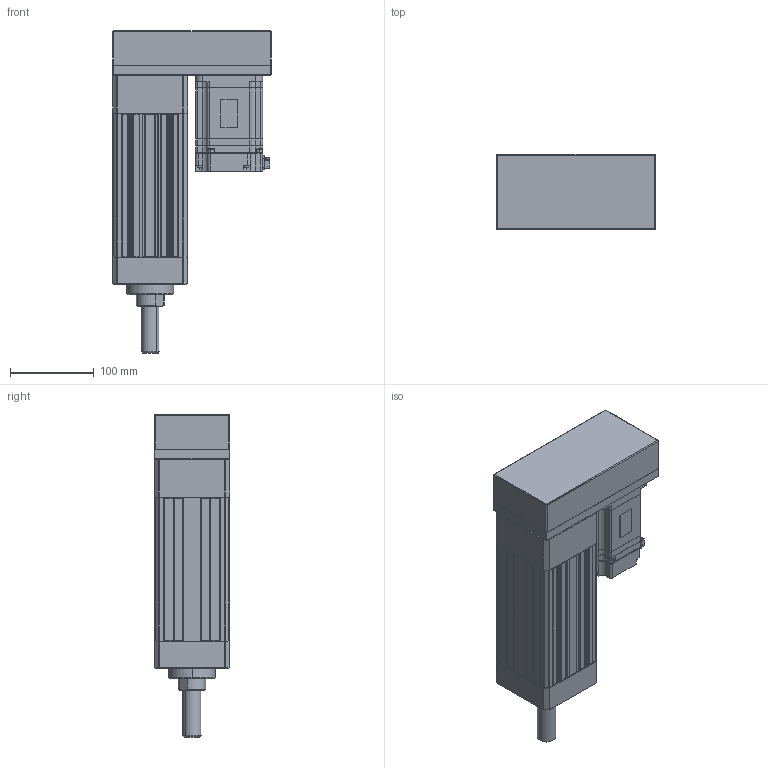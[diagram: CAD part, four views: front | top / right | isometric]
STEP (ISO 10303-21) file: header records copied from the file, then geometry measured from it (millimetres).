
FILE_DESCRIPTION (( 'STEP AP203' ), '1' );
FILE_NAME ('ANS090R-P050-05(10)(20)-W75-M.STEP', '2019-03-02T10:08:55', ( 'user' ), ( '' ), 'SwSTEP 2.0', 'SolidWorks 2013', '' );
FILE_SCHEMA (( 'CONFIG_CONTROL_DESIGN' ));
Length unit declared in the file: millimetre
Products named in the file (4): ANS090R-P050-05(10)(20)-W75-M; ANS090R P050 VER2; SGMJV_08A_A21; ANS090 ROD ST050-M
Assembly tree (3 placements, depth 2):
  ANS090R-P050-05(10)(20)-W75-M
    ANS090R P050 VER2
    SGMJV_08A_A21
    ANS090 ROD ST050-M
Bounding box: 190 x 90 x 386 mm (x, y, z)
Volume: 2161078.2 mm3; surface area: 375497.7 mm2
Topology: 3 solids, 3 shells, 1078 faces, 2857 edges, 1838 vertices
Faces by surface type: plane 646, cylinder 346, cone 74, bspline 8, sphere 4
Entity records: 33969 total; most frequent: CARTESIAN_POINT 6617, ORIENTED_EDGE 5674, DIRECTION 5555, EDGE_CURVE 2837, LINE 1987, VECTOR 1987, VERTEX_POINT 1838, AXIS2_PLACEMENT_3D 1784
